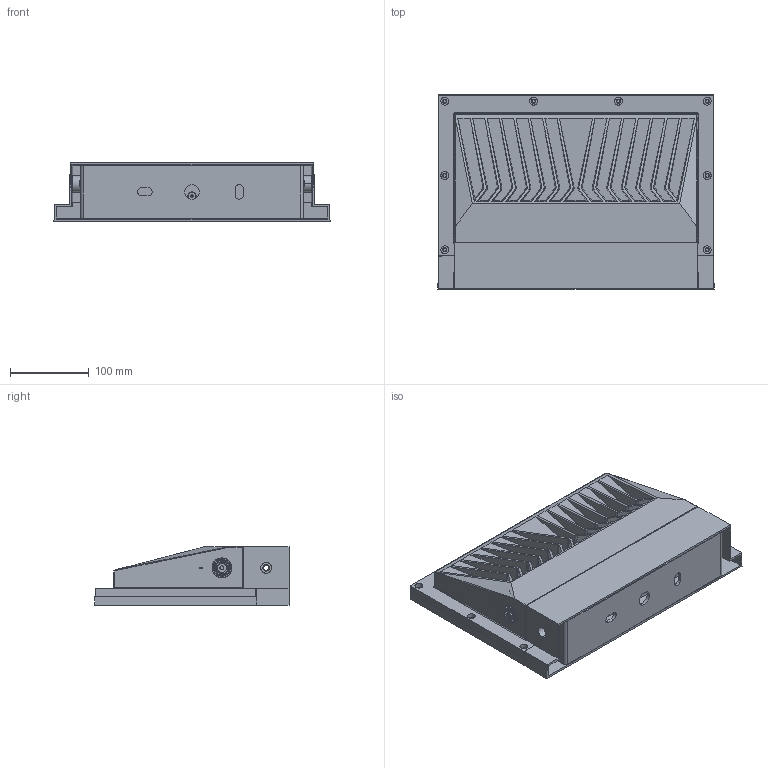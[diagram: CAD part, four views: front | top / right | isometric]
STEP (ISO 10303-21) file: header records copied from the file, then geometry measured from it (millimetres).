
FILE_DESCRIPTION((''),'2;1');
FILE_NAME('7HK_GUDING_ZUO_ASM0819_ASM_1_ASM','2024-11-23T',('C028'),(''),'CREO PARAMETRIC BY PTC INC, 2014190','CREO PARAMETRIC BY PTC INC, 2014190','');
FILE_SCHEMA(('CONFIG_CONTROL_DESIGN'));
Products named in the file (27): JUNCTION-BOX_197_1_1_2_1; 7HK_WALL_PLATE_10_1; M4F_185_1_1_2_1; ZHIJIA_ASM_186_ASM_1_ASM_1_ASM__ASM; 350-B_ASM_98_ASM_1_ASM_1_ASM_AS_ASM; 7HK_0715_ASM_49_ASM_1_ASM; FACE-COVER_193_1_1_3_1_1_1; GLASS_3HK_7_1_1_1; FACE-COVER_ASM_185_ASM_1_ASM__2_ASM; FANGSHUISAI_185_1_1_2_1_1_1; PAD_185_1_1_2_1_1_1; PG9_ASM_185_ASM_1_ASM_1_ASM_A_1_ASM; DENGTIGUIJIAO_187_1_1_2_1_1_1; 3HKDT_STP_105_1_1_10_1_1_1; MODULE-HOUSING_204_1_1_2_1_1_1; M3_185_1_1_2_1_1_1; DIYAQUDONG_59_1_1_2_1_1_1; 7HK-FGQ_1_1; 7HK-FGP_1_3; BEND_7HK_12_1_3_7; XINLVJIBAN-00_1_6; LENS-00_45_1_2; C20_ASM_1_ASM_1_ASM; C20_ASM_5_ASM; C3HKA2157_ASM_4_ASM_10_ASM; C3HKA2157_ASM; 7HK_GUDING_ZUO_ASM0819_ASM_1_ASM
Assembly tree (35 placements, depth 6):
  7HK_GUDING_ZUO_ASM0819_ASM_1_ASM
    7HK_0715_ASM_49_ASM_1_ASM
      350-B_ASM_98_ASM_1_ASM_1_ASM_AS_ASM
        ZHIJIA_ASM_186_ASM_1_ASM_1_ASM__ASM
          JUNCTION-BOX_197_1_1_2_1
          7HK_WALL_PLATE_10_1
          M4F_185_1_1_2_1  x6
    C3HKA2157_ASM
      C3HKA2157_ASM_4_ASM_10_ASM
        FACE-COVER_ASM_185_ASM_1_ASM__2_ASM
          FACE-COVER_193_1_1_3_1_1_1
          GLASS_3HK_7_1_1_1
        PG9_ASM_185_ASM_1_ASM_1_ASM_A_1_ASM  x2
          FANGSHUISAI_185_1_1_2_1_1_1
          PAD_185_1_1_2_1_1_1
        DENGTIGUIJIAO_187_1_1_2_1_1_1
        3HKDT_STP_105_1_1_10_1_1_1
        MODULE-HOUSING_204_1_1_2_1_1_1
        M3_185_1_1_2_1_1_1  x2
        DIYAQUDONG_59_1_1_2_1_1_1
        7HK-FGQ_1_1
        7HK-FGP_1_3
        BEND_7HK_12_1_3_7
        C20_ASM_5_ASM
          C20_ASM_1_ASM_1_ASM
            XINLVJIBAN-00_1_6
            LENS-00_45_1_2
          LENS-00_45_1_2  x2
Bounding box: 351.49 x 247 x 74.88 mm (x, y, z)
Volume: 1754540.4 mm3; surface area: 1050348.7 mm2
Topology: 27 solids, 27 shells, 3165 faces, 8525 edges, 5638 vertices
Faces by surface type: plane 2120, cylinder 708, bspline 162, cone 118, torus 28, sphere 20, extrusion 9
Entity records: 86452 total; most frequent: CARTESIAN_POINT 23725, ORIENTED_EDGE 13550, DIRECTION 11696, EDGE_CURVE 6775, VERTEX_POINT 4492, VECTOR 4368, LINE 4365, AXIS2_PLACEMENT_3D 3664
